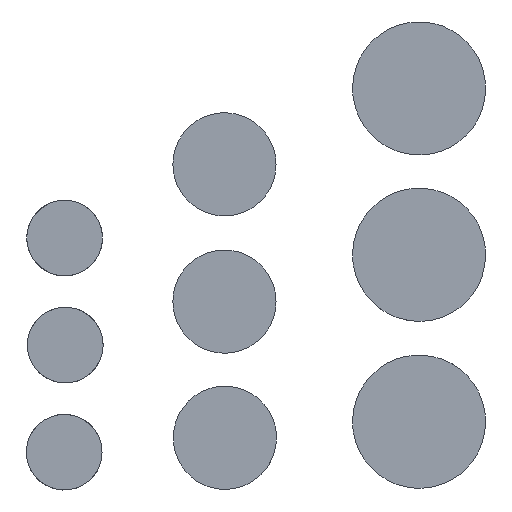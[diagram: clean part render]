
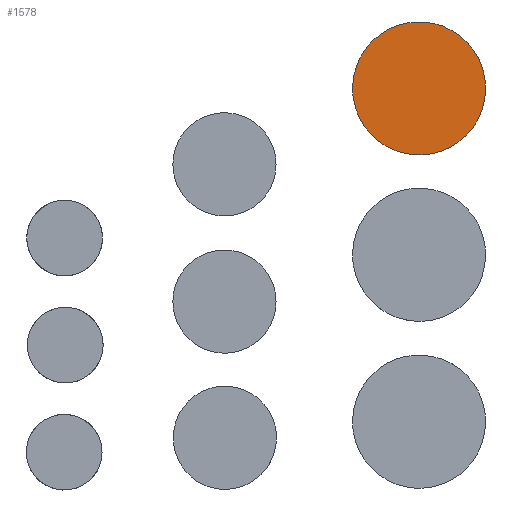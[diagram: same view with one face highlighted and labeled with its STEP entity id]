
A CAD part, top view. The second image highlights one B-rep face of the part: STEP entity #1578.
In plain terms, the highlighted planar face has unit normal (0, 0, 1).
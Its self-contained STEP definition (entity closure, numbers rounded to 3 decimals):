
#1578=ADVANCED_FACE('',(#4259),#42308,.T.);
#4259=FACE_OUTER_BOUND('',#7021,.T.);
#7021=EDGE_LOOP('',(#13285,#13286));
#13285=ORIENTED_EDGE('',*,*,#24651,.F.);
#13286=ORIENTED_EDGE('',*,*,#24648,.F.);
#24648=EDGE_CURVE('',#37363,#37365,#33983,.T.);
#24651=EDGE_CURVE('',#37365,#37363,#33985,.T.);
#33983=(
BOUNDED_CURVE()
B_SPLINE_CURVE(2,(#59796,#59797,#59798,#59799,#59800),.UNSPECIFIED.,.F.,
 .F.)
B_SPLINE_CURVE_WITH_KNOTS((3,2,3),(-2513.274,-1884.956,
-1256.637),.UNSPECIFIED.)
CURVE()
GEOMETRIC_REPRESENTATION_ITEM()
RATIONAL_B_SPLINE_CURVE((1.,0.707,1.,0.707,1.))
REPRESENTATION_ITEM('')
);
#33985=(
BOUNDED_CURVE()
B_SPLINE_CURVE(2,(#59808,#59809,#59810,#59811,#59812),.UNSPECIFIED.,.F.,
 .F.)
B_SPLINE_CURVE_WITH_KNOTS((3,2,3),(-1256.637,-628.319,
0.),.UNSPECIFIED.)
CURVE()
GEOMETRIC_REPRESENTATION_ITEM()
RATIONAL_B_SPLINE_CURVE((1.,0.707,1.,0.707,1.))
REPRESENTATION_ITEM('')
);
#37363=VERTEX_POINT('',#59786);
#37365=VERTEX_POINT('',#59788);
#42308=PLANE('',#43273);
#43273=AXIS2_PLACEMENT_3D('',#59774,#44221,$);
#44221=DIRECTION('',(0.,0.,1.));
#59774=CARTESIAN_POINT('',(3214.613,1739.316,291.527));
#59786=CARTESIAN_POINT('',(3114.613,2239.316,291.527));
#59788=CARTESIAN_POINT('',(2314.613,2239.316,291.527));
#59796=CARTESIAN_POINT('',(3114.613,2239.316,291.527));
#59797=CARTESIAN_POINT('',(3114.613,1839.316,291.527));
#59798=CARTESIAN_POINT('',(2714.613,1839.316,291.527));
#59799=CARTESIAN_POINT('',(2314.613,1839.316,291.527));
#59800=CARTESIAN_POINT('',(2314.613,2239.316,291.527));
#59808=CARTESIAN_POINT('',(2314.613,2239.316,291.527));
#59809=CARTESIAN_POINT('',(2314.613,2639.316,291.527));
#59810=CARTESIAN_POINT('',(2714.613,2639.316,291.527));
#59811=CARTESIAN_POINT('',(3114.613,2639.316,291.527));
#59812=CARTESIAN_POINT('',(3114.613,2239.316,291.527));
